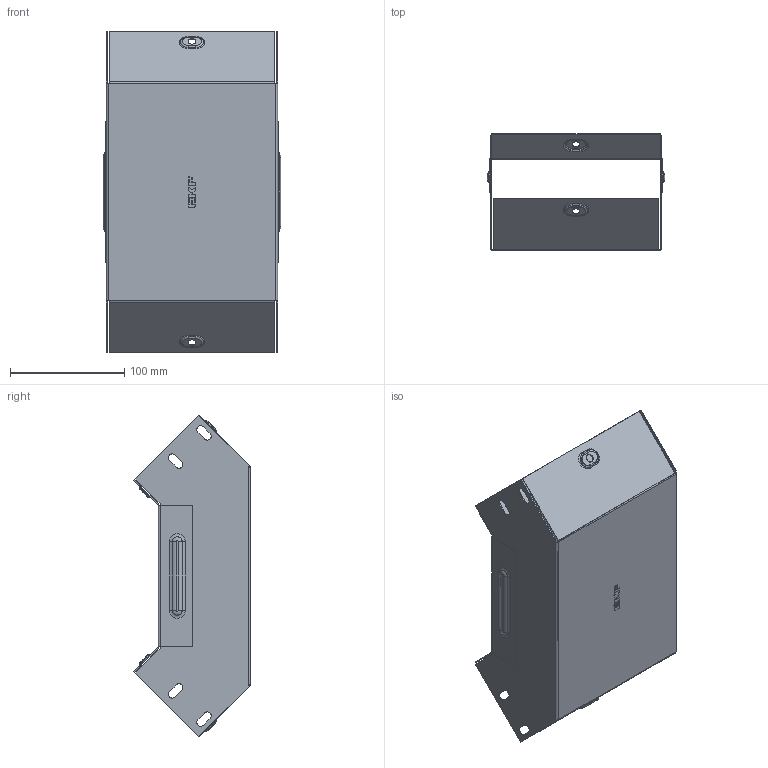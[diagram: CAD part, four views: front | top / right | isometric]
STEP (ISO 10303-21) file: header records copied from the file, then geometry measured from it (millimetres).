
FILE_DESCRIPTION (( 'STEP AP214' ), '1' );
FILE_NAME ('vi9080150_捘.STEP', '2019-06-10T09:28:15', ( '砐錪賧瘔蠈錪 Windows' ), ( '' ), 'SwSTEP 2.0', 'SolidWorks 2018', '' );
FILE_SCHEMA (( 'AUTOMOTIVE_DESIGN' ));
Length unit declared in the file: millimetre
Products named in the file (1): vi9080150_捘
Bounding box: 155.6 x 102.01 x 281.73 mm (x, y, z)
Volume: 96760.1 mm3; surface area: 244039.6 mm2
Topology: 2 solids, 2 shells, 436 faces, 1116 edges, 712 vertices
Faces by surface type: plane 230, cylinder 124, torus 64, bspline 18
Entity records: 14120 total; most frequent: CARTESIAN_POINT 3284, DIRECTION 2262, ORIENTED_EDGE 2232, EDGE_CURVE 1116, AXIS2_PLACEMENT_3D 763, VECTOR 736, LINE 736, VERTEX_POINT 712
